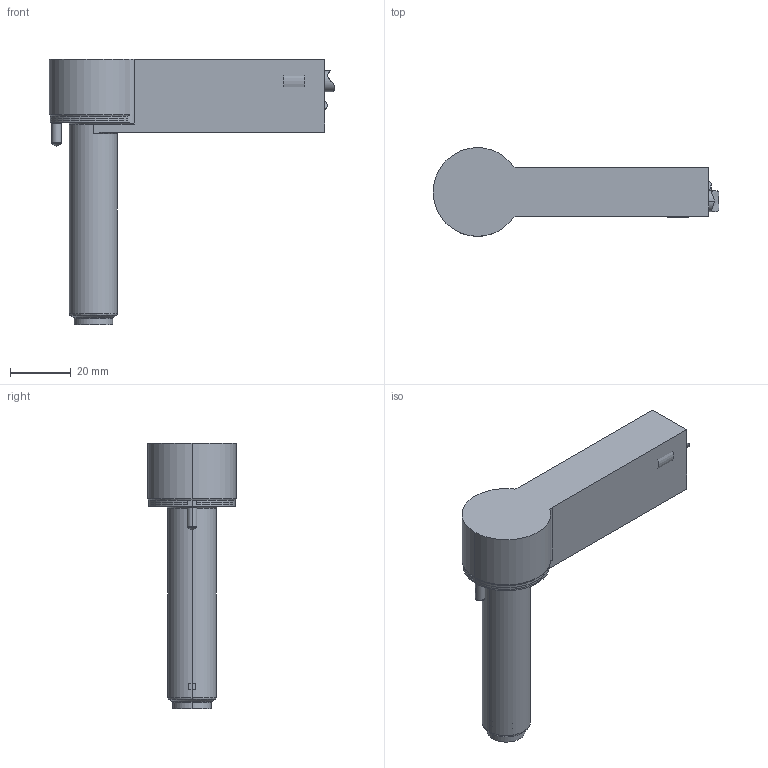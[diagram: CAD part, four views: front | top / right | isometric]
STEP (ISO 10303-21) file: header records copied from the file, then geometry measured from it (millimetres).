
FILE_DESCRIPTION (( 'STEP AP203' ), '1' );
FILE_NAME ('FSBH33-2-1SN-6.step', '2014-11-08T20:29:45', ( '' ), ( '' ), 'SwSTEP 2.0', 'SolidWorks 2009', '' );
FILE_SCHEMA (( 'CONFIG_CONTROL_DESIGN' ));
Length unit declared in the file: inch
Products named in the file (1): FSBH33-2-1SN-6
Bounding box: 94.21 x 29.18 x 87.5 mm (x, y, z)
Volume: 74713.1 mm3; surface area: 29806.6 mm2
Topology: 7 solids, 7 shells, 256 faces, 591 edges, 358 vertices
Faces by surface type: cylinder 90, bspline 77, plane 52, cone 37
Entity records: 10853 total; most frequent: CARTESIAN_POINT 5391, ORIENTED_EDGE 1166, DIRECTION 1058, EDGE_CURVE 583, AXIS2_PLACEMENT_3D 432, VERTEX_POINT 358, EDGE_LOOP 277, ADVANCED_FACE 256
